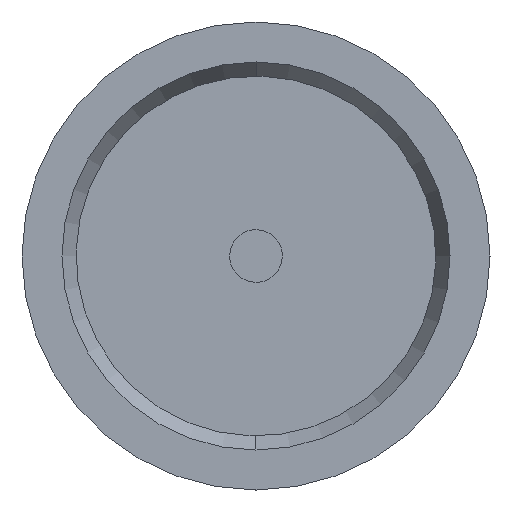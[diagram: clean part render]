
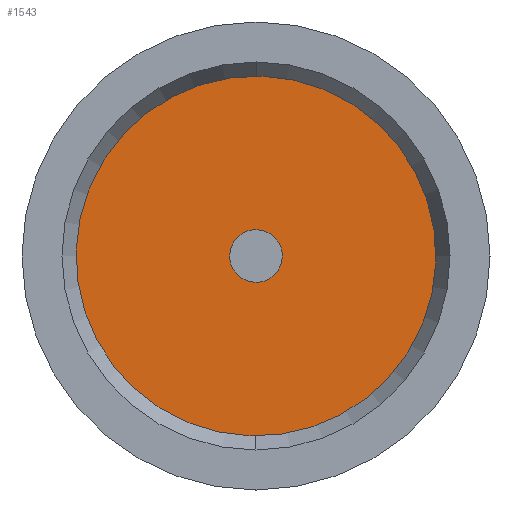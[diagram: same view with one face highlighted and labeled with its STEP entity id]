
A CAD part, left-side view. The second image highlights one B-rep face of the part: STEP entity #1543.
In plain terms, the highlighted planar face has unit normal (-1, 0, 0).
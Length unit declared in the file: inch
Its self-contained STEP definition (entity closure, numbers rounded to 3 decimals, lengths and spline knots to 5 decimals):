
#58 = EDGE_CURVE ( 'NONE', #1262, #1160, #166, .T. ) ;
#90 = EDGE_CURVE ( 'NONE', #902, #397, #1355, .T. ) ;
#166 = CIRCLE ( 'NONE', #730, 0.007 ) ;
#238 = DIRECTION ( 'NONE',  ( -1., 0., 0. ) ) ;
#251 = CARTESIAN_POINT ( 'NONE',  ( 0., 0., 0. ) ) ;
#290 = ORIENTED_EDGE ( 'NONE', *, *, #1159, .F. ) ;
#393 = ORIENTED_EDGE ( 'NONE', *, *, #90, .T. ) ;
#395 = EDGE_CURVE ( 'NONE', #397, #902, #603, .T. ) ;
#397 = VERTEX_POINT ( 'NONE', #803 ) ;
#448 = EDGE_LOOP ( 'NONE', ( #1133, #290 ) ) ;
#449 = CARTESIAN_POINT ( 'NONE',  ( 0., 0., 0. ) ) ;
#451 = FACE_BOUND ( 'NONE', #448, .T. ) ;
#469 = DIRECTION ( 'NONE',  ( 0., 0., 1. ) ) ;
#542 = CARTESIAN_POINT ( 'NONE',  ( 0., 0., -0.04788 ) ) ;
#565 = DIRECTION ( 'NONE',  ( -1., 0., 0. ) ) ;
#603 = CIRCLE ( 'NONE', #782, 0.04788 ) ;
#606 = AXIS2_PLACEMENT_3D ( 'NONE', #1418, #565, #1550 ) ;
#672 = CARTESIAN_POINT ( 'NONE',  ( 0., 0., 0. ) ) ;
#684 = CARTESIAN_POINT ( 'NONE',  ( 0., 0., 0. ) ) ;
#697 = FACE_OUTER_BOUND ( 'NONE', #1041, .T. ) ;
#704 = DIRECTION ( 'NONE',  ( 0., 0., -1. ) ) ;
#706 = CIRCLE ( 'NONE', #1250, 0.007 ) ;
#730 = AXIS2_PLACEMENT_3D ( 'NONE', #672, #1053, #1394 ) ;
#782 = AXIS2_PLACEMENT_3D ( 'NONE', #449, #1568, #469 ) ;
#803 = CARTESIAN_POINT ( 'NONE',  ( 0., 0., 0.04788 ) ) ;
#899 = AXIS2_PLACEMENT_3D ( 'NONE', #684, #926, #704 ) ;
#902 = VERTEX_POINT ( 'NONE', #542 ) ;
#926 = DIRECTION ( 'NONE',  ( 1., 0., 0. ) ) ;
#1006 = DIRECTION ( 'NONE',  ( 0., 0., 1. ) ) ;
#1041 = EDGE_LOOP ( 'NONE', ( #1462, #393 ) ) ;
#1053 = DIRECTION ( 'NONE',  ( -1., 0., 0. ) ) ;
#1133 = ORIENTED_EDGE ( 'NONE', *, *, #58, .F. ) ;
#1159 = EDGE_CURVE ( 'NONE', #1160, #1262, #706, .T. ) ;
#1160 = VERTEX_POINT ( 'NONE', #1585 ) ;
#1186 = PLANE ( 'NONE',  #899 ) ;
#1250 = AXIS2_PLACEMENT_3D ( 'NONE', #251, #238, #1006 ) ;
#1262 = VERTEX_POINT ( 'NONE', #1409 ) ;
#1355 = CIRCLE ( 'NONE', #606, 0.04788 ) ;
#1394 = DIRECTION ( 'NONE',  ( 0., 0., 1. ) ) ;
#1409 = CARTESIAN_POINT ( 'NONE',  ( 0., 0., 0.007 ) ) ;
#1418 = CARTESIAN_POINT ( 'NONE',  ( 0., 0., 0. ) ) ;
#1462 = ORIENTED_EDGE ( 'NONE', *, *, #395, .T. ) ;
#1543 = ADVANCED_FACE ( 'NONE', ( #451, #697 ), #1186, .F. ) ;
#1550 = DIRECTION ( 'NONE',  ( 0., 0., 1. ) ) ;
#1568 = DIRECTION ( 'NONE',  ( -1., 0., 0. ) ) ;
#1585 = CARTESIAN_POINT ( 'NONE',  ( 0., 0., -0.007 ) ) ;
